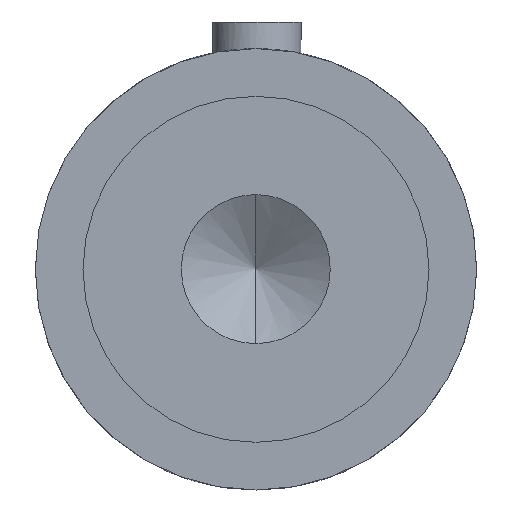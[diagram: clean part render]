
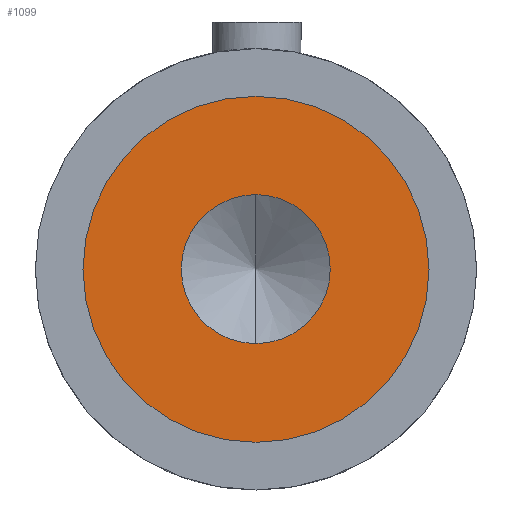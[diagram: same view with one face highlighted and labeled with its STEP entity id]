
A CAD part, front view. The second image highlights one B-rep face of the part: STEP entity #1099.
In plain terms, the highlighted planar face has unit normal (0, -1, 0).
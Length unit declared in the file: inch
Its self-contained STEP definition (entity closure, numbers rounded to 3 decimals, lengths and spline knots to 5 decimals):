
#64 = EDGE_CURVE ( 'NONE', #1198, #1161, #797, .T. ) ;
#85 = EDGE_CURVE ( 'NONE', #1156, #1148, #806, .T. ) ;
#87 = EDGE_CURVE ( 'NONE', #1148, #1156, #794, .T. ) ;
#112 = EDGE_CURVE ( 'NONE', #1161, #1198, #860, .T. ) ;
#117 = AXIS2_PLACEMENT_3D ( 'NONE', #373, #399, #386 ) ;
#132 = AXIS2_PLACEMENT_3D ( 'NONE', #379, #374, #380 ) ;
#144 = AXIS2_PLACEMENT_3D ( 'NONE', #444, #440, #465 ) ;
#147 = AXIS2_PLACEMENT_3D ( 'NONE', #298, #319, #290 ) ;
#158 = AXIS2_PLACEMENT_3D ( 'NONE', #474, #457, #475 ) ;
#290 = DIRECTION ( 'NONE',  ( 0., 0., -1. ) ) ;
#298 = CARTESIAN_POINT ( 'NONE',  ( -0.00969, -1.60547, -0.10551 ) ) ;
#319 = DIRECTION ( 'NONE',  ( 0., -1., 0. ) ) ;
#373 = CARTESIAN_POINT ( 'NONE',  ( -0.00905, -1.60547, -0.10615 ) ) ;
#374 = DIRECTION ( 'NONE',  ( 0., 1., 0. ) ) ;
#379 = CARTESIAN_POINT ( 'NONE',  ( -0.00905, -1.60547, -0.10615 ) ) ;
#380 = DIRECTION ( 'NONE',  ( 0., 0., -1. ) ) ;
#386 = DIRECTION ( 'NONE',  ( 0., 0., -1. ) ) ;
#399 = DIRECTION ( 'NONE',  ( 0., 1., 0. ) ) ;
#440 = DIRECTION ( 'NONE',  ( 0., -1., 0. ) ) ;
#444 = CARTESIAN_POINT ( 'NONE',  ( -0.00969, -1.60547, -0.10551 ) ) ;
#450 = PLANE ( 'NONE',  #158 ) ;
#457 = DIRECTION ( 'NONE',  ( 0., 1., 0. ) ) ;
#465 = DIRECTION ( 'NONE',  ( 0., 0., -1. ) ) ;
#474 = CARTESIAN_POINT ( 'NONE',  ( -0.00905, -1.60547, -0.10615 ) ) ;
#475 = DIRECTION ( 'NONE',  ( 0., 0., 1. ) ) ;
#528 = CARTESIAN_POINT ( 'NONE',  ( -0.00969, -1.60547, -0.31646 ) ) ;
#551 = CARTESIAN_POINT ( 'NONE',  ( -0.00905, -1.60547, 0.38385 ) ) ;
#557 = CARTESIAN_POINT ( 'NONE',  ( -0.00905, -1.60547, -0.59615 ) ) ;
#574 = CARTESIAN_POINT ( 'NONE',  ( -0.00969, -1.60547, 0.10544 ) ) ;
#794 = CIRCLE ( 'NONE', #132, 0.49 ) ;
#797 = CIRCLE ( 'NONE', #147, 0.21095 ) ;
#806 = CIRCLE ( 'NONE', #117, 0.49 ) ;
#824 = FACE_BOUND ( 'NONE', #1053, .T. ) ;
#831 = FACE_OUTER_BOUND ( 'NONE', #1067, .T. ) ;
#860 = CIRCLE ( 'NONE', #144, 0.21095 ) ;
#929 = ORIENTED_EDGE ( 'NONE', *, *, #64, .F. ) ;
#934 = ORIENTED_EDGE ( 'NONE', *, *, #85, .F. ) ;
#941 = ORIENTED_EDGE ( 'NONE', *, *, #112, .F. ) ;
#954 = ORIENTED_EDGE ( 'NONE', *, *, #87, .F. ) ;
#1053 = EDGE_LOOP ( 'NONE', ( #941, #929 ) ) ;
#1067 = EDGE_LOOP ( 'NONE', ( #934, #954 ) ) ;
#1099 = ADVANCED_FACE ( 'NONE', ( #824, #831 ), #450, .F. ) ;
#1148 = VERTEX_POINT ( 'NONE', #551 ) ;
#1156 = VERTEX_POINT ( 'NONE', #557 ) ;
#1161 = VERTEX_POINT ( 'NONE', #528 ) ;
#1198 = VERTEX_POINT ( 'NONE', #574 ) ;
